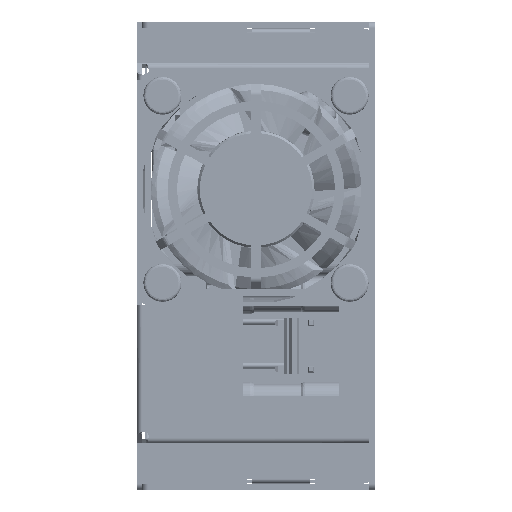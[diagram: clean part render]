
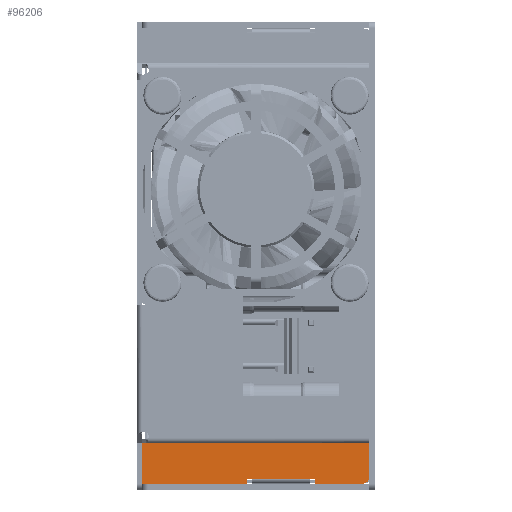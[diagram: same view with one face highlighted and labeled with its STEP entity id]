
A CAD part, left-side view. The second image highlights one B-rep face of the part: STEP entity #96206.
In plain terms, the highlighted planar face has unit normal (1, 0, 0).
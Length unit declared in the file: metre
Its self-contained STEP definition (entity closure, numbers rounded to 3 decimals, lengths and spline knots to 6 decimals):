
#524 = EDGE_CURVE ( 'NONE', #48323, #165382, #194414, .T. ) ;
#1577 = FACE_OUTER_BOUND ( 'NONE', #87391, .T. ) ;
#2639 = LINE ( 'NONE', #189007, #155736 ) ;
#7171 = CARTESIAN_POINT ( 'NONE',  ( -0.0634, -0.0378, -0.0379 ) ) ;
#8099 = ORIENTED_EDGE ( 'NONE', *, *, #210796, .T. ) ;
#8621 = VECTOR ( 'NONE', #146747, 1. ) ;
#9412 = DIRECTION ( 'NONE',  ( 0., 0., 1. ) ) ;
#9622 = DIRECTION ( 'NONE',  ( 0., 0., -1. ) ) ;
#9678 = VERTEX_POINT ( 'NONE', #191730 ) ;
#14022 = CARTESIAN_POINT ( 'NONE',  ( -0.0634, -0.0296, -0.0389 ) ) ;
#19860 = CARTESIAN_POINT ( 'NONE',  ( -0.0634, -0.018, -0.03807 ) ) ;
#22412 = AXIS2_PLACEMENT_3D ( 'NONE', #7171, #112820, #9412 ) ;
#24871 = VERTEX_POINT ( 'NONE', #86275 ) ;
#26320 = VECTOR ( 'NONE', #162727, 1. ) ;
#29323 = EDGE_CURVE ( 'NONE', #176208, #112578, #2639, .T. ) ;
#33251 = CIRCLE ( 'NONE', #22412, 0.001 ) ;
#33637 = LINE ( 'NONE', #128998, #120175 ) ;
#36758 = CARTESIAN_POINT ( 'NONE',  ( -0.0634, 0., -0.04 ) ) ;
#36840 = ORIENTED_EDGE ( 'NONE', *, *, #77781, .T. ) ;
#40290 = CARTESIAN_POINT ( 'NONE',  ( -0.0634, -0.0188, -0.03807 ) ) ;
#40823 = VERTEX_POINT ( 'NONE', #216489 ) ;
#48323 = VERTEX_POINT ( 'NONE', #19860 ) ;
#48757 = EDGE_CURVE ( 'NONE', #40823, #9678, #33251, .T. ) ;
#53833 = PLANE ( 'NONE',  #119617 ) ;
#54968 = DIRECTION ( 'NONE',  ( -1., 0., 0. ) ) ;
#71945 = DIRECTION ( 'NONE',  ( 0., 1., 0. ) ) ;
#72158 = DIRECTION ( 'NONE',  ( 0., 1., 0. ) ) ;
#77781 = EDGE_CURVE ( 'NONE', #147279, #24871, #181155, .T. ) ;
#80458 = ORIENTED_EDGE ( 'NONE', *, *, #29323, .F. ) ;
#82954 = ORIENTED_EDGE ( 'NONE', *, *, #89746, .F. ) ;
#83811 = EDGE_CURVE ( 'NONE', #112578, #209549, #33637, .T. ) ;
#86275 = CARTESIAN_POINT ( 'NONE',  ( -0.0634, -0.0296, -0.03807 ) ) ;
#87391 = EDGE_LOOP ( 'NONE', ( #154236, #36840, #8099, #82954, #165224, #208775, #112095, #136929, #80458, #165508, #198436 ) ) ;
#89746 = EDGE_CURVE ( 'NONE', #200755, #93789, #185277, .T. ) ;
#93789 = VERTEX_POINT ( 'NONE', #110690 ) ;
#94580 = LINE ( 'NONE', #213909, #26320 ) ;
#96206 = ADVANCED_FACE ( 'NONE', ( #1577 ), #53833, .F. ) ;
#102013 = DIRECTION ( 'NONE',  ( 0., -1., 0. ) ) ;
#107079 = CARTESIAN_POINT ( 'NONE',  ( -0.0634, -0.0388, -0.0358 ) ) ;
#107422 = DIRECTION ( 'NONE',  ( 0., 0., 1. ) ) ;
#110690 = CARTESIAN_POINT ( 'NONE',  ( -0.0634, -0.0288, -0.03807 ) ) ;
#112095 = ORIENTED_EDGE ( 'NONE', *, *, #206970, .F. ) ;
#112578 = VERTEX_POINT ( 'NONE', #150038 ) ;
#112677 = CARTESIAN_POINT ( 'NONE',  ( -0.0634, 0., -0.0389 ) ) ;
#112820 = DIRECTION ( 'NONE',  ( 1., 0., 0. ) ) ;
#114929 = LINE ( 'NONE', #40290, #178287 ) ;
#119617 = AXIS2_PLACEMENT_3D ( 'NONE', #36758, #54968, #176473 ) ;
#120175 = VECTOR ( 'NONE', #9622, 1. ) ;
#128998 = CARTESIAN_POINT ( 'NONE',  ( -0.0634, 0., -0.036015 ) ) ;
#136929 = ORIENTED_EDGE ( 'NONE', *, *, #83811, .F. ) ;
#138818 = DIRECTION ( 'NONE',  ( 0., 0., -1. ) ) ;
#139471 = LINE ( 'NONE', #174620, #176355 ) ;
#146747 = DIRECTION ( 'NONE',  ( 0., 1., 0. ) ) ;
#147279 = VERTEX_POINT ( 'NONE', #14022 ) ;
#150038 = CARTESIAN_POINT ( 'NONE',  ( -0.0634, 0., -0.03203 ) ) ;
#151402 = CARTESIAN_POINT ( 'NONE',  ( -0.0634, -0.0388, -0.03203 ) ) ;
#151476 = EDGE_CURVE ( 'NONE', #176208, #40823, #210484, .T. ) ;
#154236 = ORIENTED_EDGE ( 'NONE', *, *, #189337, .F. ) ;
#155736 = VECTOR ( 'NONE', #71945, 1. ) ;
#159605 = CARTESIAN_POINT ( 'NONE',  ( -0.0634, -0.0296, -0.03807 ) ) ;
#161788 = VECTOR ( 'NONE', #107422, 1. ) ;
#162727 = DIRECTION ( 'NONE',  ( 0., -1., 0. ) ) ;
#163756 = DIRECTION ( 'NONE',  ( 0., -1., 0. ) ) ;
#165224 = ORIENTED_EDGE ( 'NONE', *, *, #200261, .T. ) ;
#165382 = VERTEX_POINT ( 'NONE', #183120 ) ;
#165508 = ORIENTED_EDGE ( 'NONE', *, *, #151476, .T. ) ;
#165720 = VECTOR ( 'NONE', #224192, 1. ) ;
#166966 = VECTOR ( 'NONE', #163756, 1. ) ;
#174620 = CARTESIAN_POINT ( 'NONE',  ( -0.0634, -0.0194, -0.0389 ) ) ;
#175540 = CARTESIAN_POINT ( 'NONE',  ( -0.0634, -0.0188, -0.03807 ) ) ;
#176208 = VERTEX_POINT ( 'NONE', #151402 ) ;
#176355 = VECTOR ( 'NONE', #102013, 1. ) ;
#176473 = DIRECTION ( 'NONE',  ( 0., 0., 1. ) ) ;
#178287 = VECTOR ( 'NONE', #72158, 1. ) ;
#180815 = CARTESIAN_POINT ( 'NONE',  ( -0.0634, 0., -0.03807 ) ) ;
#181155 = LINE ( 'NONE', #159605, #161788 ) ;
#183047 = LINE ( 'NONE', #201266, #8621 ) ;
#183120 = CARTESIAN_POINT ( 'NONE',  ( -0.0634, -0.018, -0.0389 ) ) ;
#185277 = LINE ( 'NONE', #180815, #166966 ) ;
#189007 = CARTESIAN_POINT ( 'NONE',  ( -0.0634, -0.0388, -0.03203 ) ) ;
#189337 = EDGE_CURVE ( 'NONE', #147279, #9678, #139471, .T. ) ;
#191730 = CARTESIAN_POINT ( 'NONE',  ( -0.0634, -0.0378, -0.0389 ) ) ;
#194414 = LINE ( 'NONE', #209276, #217954 ) ;
#198436 = ORIENTED_EDGE ( 'NONE', *, *, #48757, .T. ) ;
#200261 = EDGE_CURVE ( 'NONE', #200755, #48323, #114929, .T. ) ;
#200755 = VERTEX_POINT ( 'NONE', #175540 ) ;
#201266 = CARTESIAN_POINT ( 'NONE',  ( -0.0634, -0.0288, -0.03807 ) ) ;
#206970 = EDGE_CURVE ( 'NONE', #209549, #165382, #94580, .T. ) ;
#208775 = ORIENTED_EDGE ( 'NONE', *, *, #524, .T. ) ;
#209276 = CARTESIAN_POINT ( 'NONE',  ( -0.0634, -0.018, -0.03807 ) ) ;
#209549 = VERTEX_POINT ( 'NONE', #112677 ) ;
#210484 = LINE ( 'NONE', #107079, #165720 ) ;
#210796 = EDGE_CURVE ( 'NONE', #24871, #93789, #183047, .T. ) ;
#213909 = CARTESIAN_POINT ( 'NONE',  ( -0.0634, -0.0194, -0.0389 ) ) ;
#216489 = CARTESIAN_POINT ( 'NONE',  ( -0.0634, -0.0388, -0.0379 ) ) ;
#217954 = VECTOR ( 'NONE', #138818, 1. ) ;
#224192 = DIRECTION ( 'NONE',  ( 0., 0., -1. ) ) ;
